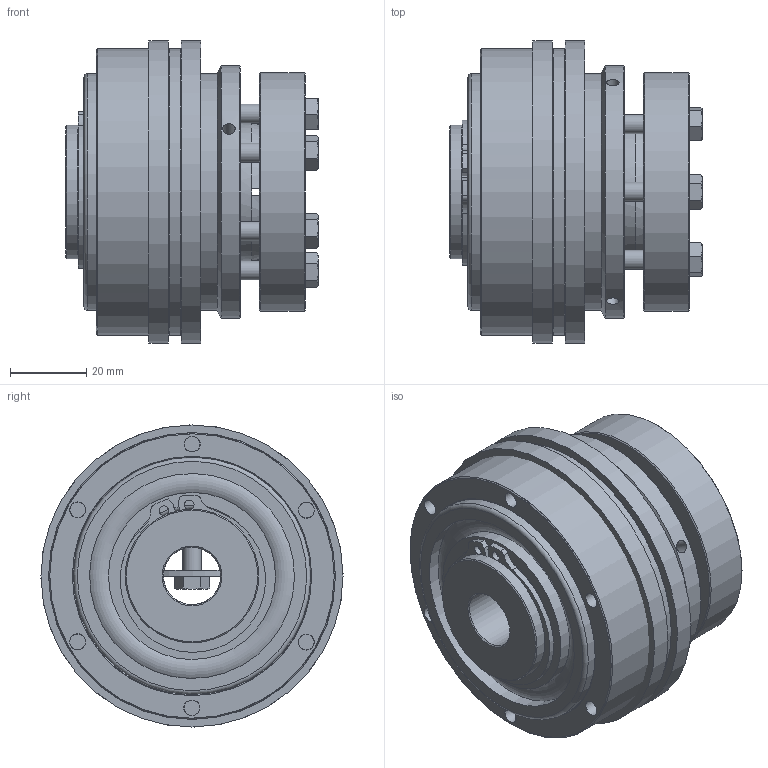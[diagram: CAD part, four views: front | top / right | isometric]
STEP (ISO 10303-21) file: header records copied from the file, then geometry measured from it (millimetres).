
FILE_DESCRIPTION( ( 'Unknown' ), '1' );
FILE_NAME( 'C:/Dokumente und Einstellungen/Sven/Desktop/hp kbk/KBK L-A-60.stp', 'Unknown', ( 'Unknown' ), ( 'Unknown' ), 'XStep 1.0', 'Unknown', ' ' );
FILE_SCHEMA( ( 'automotive_design' ) );
Length unit declared in the file: millimetre
Products named in the file (12): Assem1; Assem2; ball_bearing_-_6007_0_01_0; ball_bearing_-_6007_0_02_0; ball_bearing_-_6007_0_03_0; Stellring 60_0; Druckring 60_0; a_35_0; KBK L-A-60 Grundkörper_0; Flansch 60_0; din_en_24017_m5x20_0; Druckring L-A-60_0
Bounding box: 66 x 79 x 79 mm (x, y, z)
Volume: 391814.2 mm3; surface area: 169099.4 mm2
Topology: 28 solids, 28 shells, 459 faces, 958 edges, 608 vertices
Faces by surface type: plane 191, cylinder 132, cone 104, torus 32
Full cylindrical faces by diameter (mm): 2.5 x4, 3.242 x6, 4 x6, 4.134 x24, 5 x7, 5.5 x12, 6.88 x7, 15 x2, 33 x2, 35 x7, 35.937 x2, 43.7 x6, 44 x2, 46 x4, 46.5 x2, 53.6 x6, 61.3 x2, 62 x5, 62.5 x2, 66 x2, 75 x4, 79 x2
Entity records: 4763 total; most frequent: CARTESIAN_POINT 1043, DIRECTION 764, ORIENTED_EDGE 506, AXIS2_PLACEMENT_3D 354, EDGE_LOOP 300, EDGE_CURVE 253, FACE_OUTER_BOUND 224, VERTEX_POINT 205
